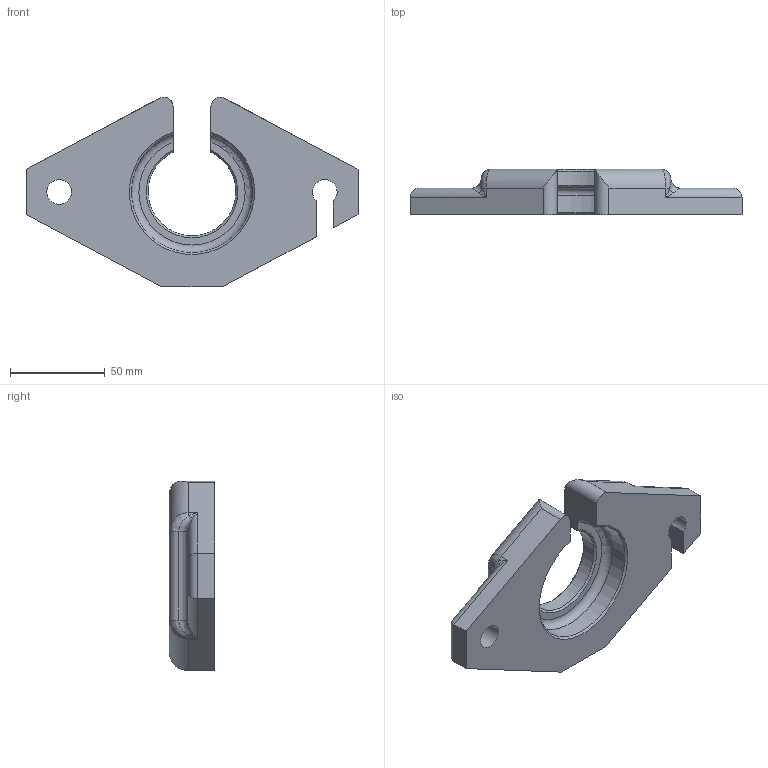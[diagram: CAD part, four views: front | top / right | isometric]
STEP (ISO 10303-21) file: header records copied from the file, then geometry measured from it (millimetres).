
FILE_DESCRIPTION(/* description */ (''),/* implementation_level */ '2;1');
FILE_NAME(/* name */ 'C:/Users/fardi/Dropbox/Work/Anyload/Load Cell Models/Product Catalog 3D/Weight Modules/106/106MHM1/106MHM1-(1-2.5)klb v2.step',/* time_stamp */ '2020-04-30T10:46:56-07:00',/* author */ (''),/* organization */ (''),/* preprocessor_version */ 'ST-DEVELOPER v18.1',/* originating_system */ 'Autodesk Translation Framework v9.2.0.1227',/* authorisation */ '');
FILE_SCHEMA (('AUTOMOTIVE_DESIGN { 1 0 10303 214 3 1 1 }'));
Length unit declared in the file: millimetre
Products named in the file (2): 106MHM1-(1-2.5)klb; Base
Assembly tree (1 placements, depth 2):
  106MHM1-(1-2.5)klb
    Base
Bounding box: 175 x 24 x 99.88 mm (x, y, z)
Volume: 172884.3 mm3; surface area: 31605.9 mm2
Topology: 1 solids, 1 shells, 63 faces, 157 edges, 92 vertices
Faces by surface type: cylinder 26, plane 17, bspline 16, cone 3, torus 1
Full cylindrical faces by diameter (mm): 13 x1
Entity records: 2342 total; most frequent: CARTESIAN_POINT 879, ORIENTED_EDGE 306, DIRECTION 283, EDGE_CURVE 153, AXIS2_PLACEMENT_3D 106, VERTEX_POINT 92, LINE 71, VECTOR 71
